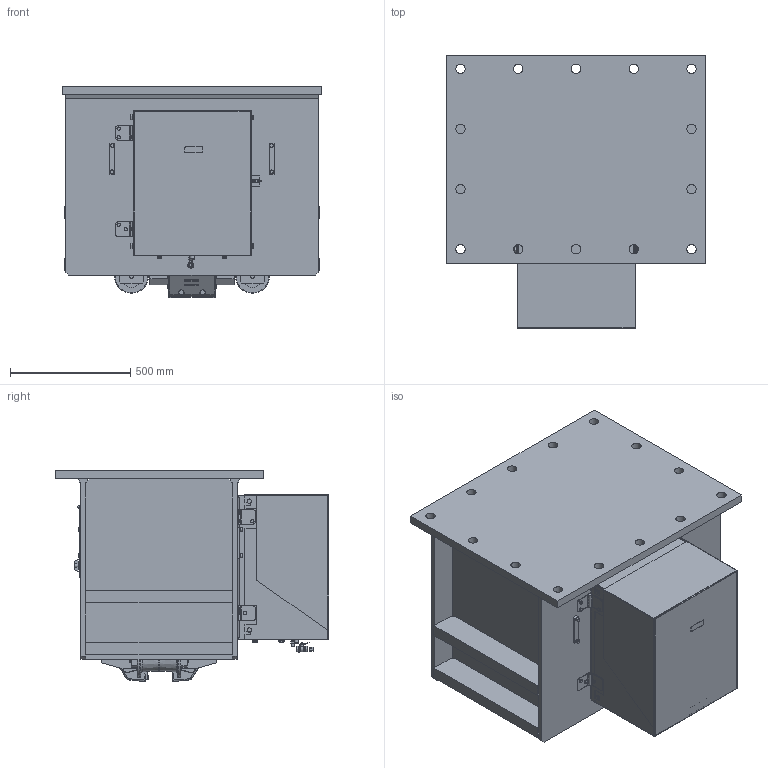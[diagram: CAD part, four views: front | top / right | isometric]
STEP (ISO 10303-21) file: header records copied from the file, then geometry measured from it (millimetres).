
FILE_DESCRIPTION(/* description */ (''),/* implementation_level */ '2;1');
FILE_NAME(/* name */ 'K:\NEMANJA\0700-2\07002001 CXHV-LH\STEP\44376.stp',/* time_stamp */ '2017-03-16T11:08:22+01:00',/* author */ ('nemgal01'),/* organization */ (''),/* preprocessor_version */ 'ST-DEVELOPER v16.1',/* originating_system */ 'Autodesk Inventor 2016',/* authorisation */ '');
FILE_SCHEMA (('AUTOMOTIVE_DESIGN { 1 0 10303 214 3 1 1 }'));
Products named in the file (1): 44376
Bounding box: 1080 x 1138.5 x 877.27 mm (x, y, z)
Volume: 168618678.9 mm3; surface area: 14883175.2 mm2
Topology: 9 solids, 9 shells, 4242 faces, 11230 edges, 7127 vertices
Faces by surface type: plane 2278, cylinder 824, bspline 585, cone 365, torus 100, sphere 90
Full cylindrical faces by diameter (mm): 3 x2, 5.058 x1, 5.5 x2, 7.323 x6, 8 x2, 8.767 x1, 9.188 x8, 9.246 x1, 10 x12, 10.109 x4, 10.557 x1, 11.053 x5, 11.113 x1, 11.4 x6, 12 x7, 13 x2, 15.4 x8, 16 x4, 17.2 x5, 18 x4, 19.063 x1, 20 x7, 20.4 x1, 21.031 x4, 22.4 x4, 23.828 x1, 23.98 x1, 24 x2, 25 x4, 25.082 x1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
Entity records: 149620 total; most frequent: CARTESIAN_POINT 45902, ORIENTED_EDGE 21716, DIRECTION 19025, EDGE_CURVE 10857, VERTEX_POINT 7040, AXIS2_PLACEMENT_3D 6481, LINE 6063, VECTOR 6063
